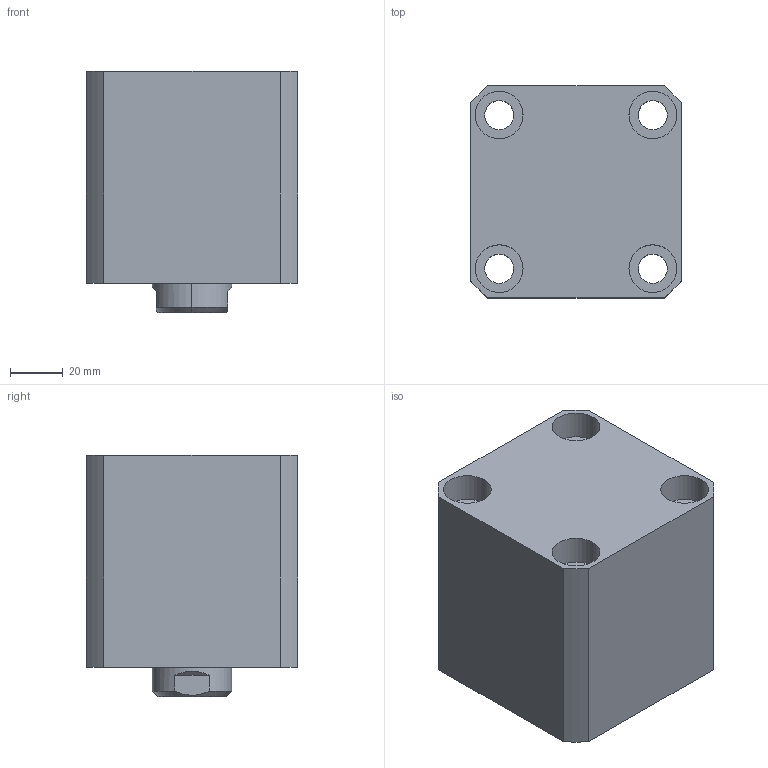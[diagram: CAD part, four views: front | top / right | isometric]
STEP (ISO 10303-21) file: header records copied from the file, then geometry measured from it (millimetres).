
FILE_DESCRIPTION (( 'STEP AP203' ), '1' );
FILE_NAME ('CHTB-SDMA50-20N.STEP', '2018-05-19T01:29:51', ( '' ), ( '' ), 'SwSTEP 2.0', 'SolidWorks 2015', '' );
FILE_SCHEMA (( 'CONFIG_CONTROL_DESIGN' ));
Length unit declared in the file: millimetre
Products named in the file (5): 掛极SDMA50-20N; CHTM-SDMA50QG; M6; CHTB-SDMA50-20N; 活塞杆SDMA50-20N
Assembly tree (5 placements, depth 2):
  CHTB-SDMA50-20N
    掛极SDMA50-20N
    活塞杆SDMA50-20N
    CHTM-SDMA50QG
    M6  x2
Bounding box: 80 x 80 x 91 mm (x, y, z)
Volume: 428751.9 mm3; surface area: 93376.3 mm2
Topology: 5 solids, 5 shells, 270 faces, 703 edges, 464 vertices
Faces by surface type: cylinder 139, plane 58, cone 31, bspline 26, torus 16
Entity records: 14133 total; most frequent: CARTESIAN_POINT 8131, ORIENTED_EDGE 1208, DIRECTION 1054, EDGE_CURVE 604, AXIS2_PLACEMENT_3D 433, VERTEX_POINT 403, EDGE_LOOP 277, FACE_OUTER_BOUND 235
